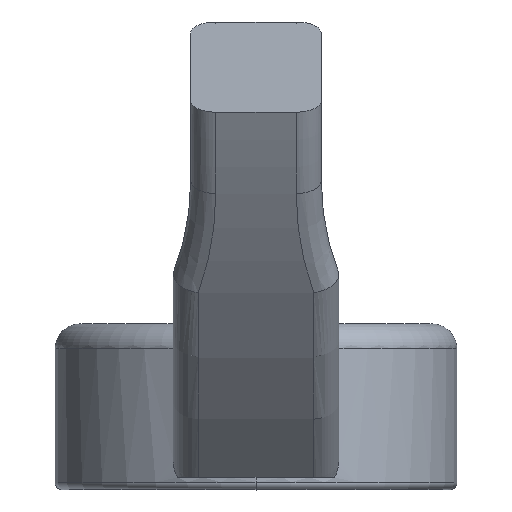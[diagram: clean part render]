
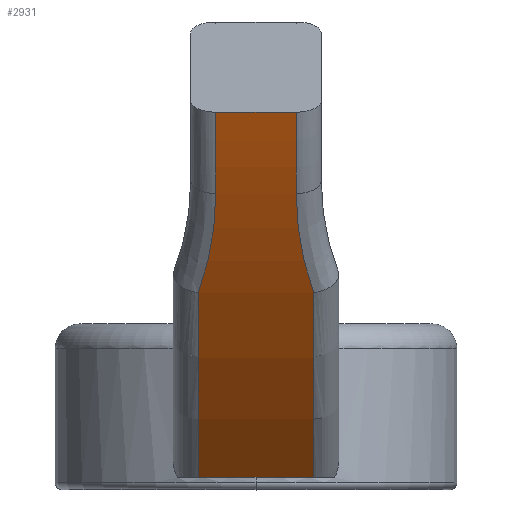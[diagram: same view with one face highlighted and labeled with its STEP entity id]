
A CAD part, top view. The second image highlights one B-rep face of the part: STEP entity #2931.
In plain terms, the highlighted cylindrical face has radius 26 mm (diameter 52 mm), a partial arc.
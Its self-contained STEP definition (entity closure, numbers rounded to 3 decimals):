
#216 = CARTESIAN_POINT ( 'NONE',  ( -0.8, 7.5, 9.5 ) ) ;
#325 = EDGE_CURVE ( 'NONE', #3829, #1783, #1084, .T. ) ;
#372 = EDGE_LOOP ( 'NONE', ( #3052, #602, #3488, #772, #2919, #556, #622, #2371, #2722 ) ) ;
#422 = CARTESIAN_POINT ( 'NONE',  ( 1.15, 3.911, 7.283 ) ) ;
#556 = ORIENTED_EDGE ( 'NONE', *, *, #325, .T. ) ;
#593 = AXIS2_PLACEMENT_3D ( 'NONE', #2867, #3861, #3907 ) ;
#602 = ORIENTED_EDGE ( 'NONE', *, *, #3601, .T. ) ;
#622 = ORIENTED_EDGE ( 'NONE', *, *, #3702, .T. ) ;
#676 = DIRECTION ( 'NONE',  ( -1., 0., 0. ) ) ;
#764 = CARTESIAN_POINT ( 'NONE',  ( 1.65, 0.238, 4. ) ) ;
#772 = ORIENTED_EDGE ( 'NONE', *, *, #4229, .F. ) ;
#1084 = B_SPLINE_CURVE_WITH_KNOTS ( 'NONE', 3,
 ( #1426, #4335, #2609, #3999 ),
 .UNSPECIFIED., .F., .F.,
 ( 4, 4 ),
 ( 0., 0.002 ),
 .UNSPECIFIED. ) ;
#1120 = AXIS2_PLACEMENT_3D ( 'NONE', #3047, #4033, #1289 ) ;
#1218 = DIRECTION ( 'NONE',  ( -1., 0., 0. ) ) ;
#1289 = DIRECTION ( 'NONE',  ( 0., 0., 1. ) ) ;
#1315 = AXIS2_PLACEMENT_3D ( 'NONE', #2376, #676, #3405 ) ;
#1326 = VERTEX_POINT ( 'NONE', #4126 ) ;
#1356 = LINE ( 'NONE', #2768, #1754 ) ;
#1392 = AXIS2_PLACEMENT_3D ( 'NONE', #1493, #4222, #4287 ) ;
#1396 = LINE ( 'NONE', #1771, #4375 ) ;
#1412 = CARTESIAN_POINT ( 'NONE',  ( -0.8, 5.879, 8.598 ) ) ;
#1426 = CARTESIAN_POINT ( 'NONE',  ( 1.15, 3.911, 7.283 ) ) ;
#1476 = CARTESIAN_POINT ( 'NONE',  ( -1.15, 0.238, 4. ) ) ;
#1493 = CARTESIAN_POINT ( 'NONE',  ( -1.15, 19.324, -13.656 ) ) ;
#1499 = VERTEX_POINT ( 'NONE', #3400 ) ;
#1517 = VERTEX_POINT ( 'NONE', #216 ) ;
#1594 = EDGE_CURVE ( 'NONE', #1517, #2756, #4472, .T. ) ;
#1638 = FACE_OUTER_BOUND ( 'NONE', #372, .T. ) ;
#1749 = EDGE_CURVE ( 'NONE', #2756, #3272, #4056, .T. ) ;
#1750 = EDGE_CURVE ( 'NONE', #4453, #1517, #1356, .T. ) ;
#1753 = CARTESIAN_POINT ( 'NONE',  ( -1.15, 3.911, 7.283 ) ) ;
#1754 = VECTOR ( 'NONE', #3836, 1000. ) ;
#1771 = CARTESIAN_POINT ( 'NONE',  ( 1.65, 0.238, 4. ) ) ;
#1783 = VERTEX_POINT ( 'NONE', #4148 ) ;
#1840 = CIRCLE ( 'NONE', #1315, 26. ) ;
#2169 = DIRECTION ( 'NONE',  ( -1., 0., 0. ) ) ;
#2222 = CARTESIAN_POINT ( 'NONE',  ( 0.8, 7.5, 9.5 ) ) ;
#2259 = CARTESIAN_POINT ( 'NONE',  ( 1.65, 19.324, -13.656 ) ) ;
#2287 = DIRECTION ( 'NONE',  ( 0., 0., 1. ) ) ;
#2371 = ORIENTED_EDGE ( 'NONE', *, *, #1750, .T. ) ;
#2376 = CARTESIAN_POINT ( 'NONE',  ( 0.8, 19.324, -13.656 ) ) ;
#2483 = LINE ( 'NONE', #764, #2493 ) ;
#2493 = VECTOR ( 'NONE', #2169, 1000. ) ;
#2565 = CIRCLE ( 'NONE', #593, 26. ) ;
#2609 = CARTESIAN_POINT ( 'NONE',  ( 0.8, 5.188, 8.181 ) ) ;
#2722 = ORIENTED_EDGE ( 'NONE', *, *, #1594, .T. ) ;
#2756 = VERTEX_POINT ( 'NONE', #1412 ) ;
#2768 = CARTESIAN_POINT ( 'NONE',  ( 1.65, 7.5, 9.5 ) ) ;
#2809 = DIRECTION ( 'NONE',  ( -1., 0., 0. ) ) ;
#2867 = CARTESIAN_POINT ( 'NONE',  ( 1.15, 19.324, -13.656 ) ) ;
#2919 = ORIENTED_EDGE ( 'NONE', *, *, #3487, .T. ) ;
#2931 = ADVANCED_FACE ( 'NONE', ( #1638 ), #4038, .T. ) ;
#3047 = CARTESIAN_POINT ( 'NONE',  ( -0.8, 19.324, -13.656 ) ) ;
#3052 = ORIENTED_EDGE ( 'NONE', *, *, #1749, .T. ) ;
#3138 = CARTESIAN_POINT ( 'NONE',  ( -0.8, 5.188, 8.181 ) ) ;
#3272 = VERTEX_POINT ( 'NONE', #4193 ) ;
#3400 = CARTESIAN_POINT ( 'NONE',  ( 0., 0.238, 4. ) ) ;
#3405 = DIRECTION ( 'NONE',  ( 0., 0., -1. ) ) ;
#3487 = EDGE_CURVE ( 'NONE', #1326, #3829, #2565, .T. ) ;
#3488 = ORIENTED_EDGE ( 'NONE', *, *, #3787, .F. ) ;
#3601 = EDGE_CURVE ( 'NONE', #3272, #4427, #4012, .T. ) ;
#3702 = EDGE_CURVE ( 'NONE', #1783, #4453, #1840, .T. ) ;
#3787 = EDGE_CURVE ( 'NONE', #1499, #4427, #2483, .T. ) ;
#3829 = VERTEX_POINT ( 'NONE', #422 ) ;
#3836 = DIRECTION ( 'NONE',  ( -1., 0., 0. ) ) ;
#3861 = DIRECTION ( 'NONE',  ( -1., 0., 0. ) ) ;
#3880 = AXIS2_PLACEMENT_3D ( 'NONE', #2259, #1218, #2287 ) ;
#3907 = DIRECTION ( 'NONE',  ( 0., 0., -1. ) ) ;
#3999 = CARTESIAN_POINT ( 'NONE',  ( 0.8, 5.879, 8.598 ) ) ;
#4012 = CIRCLE ( 'NONE', #1392, 26. ) ;
#4033 = DIRECTION ( 'NONE',  ( 1., 0., 0. ) ) ;
#4038 = CYLINDRICAL_SURFACE ( 'NONE', #3880, 26. ) ;
#4056 = B_SPLINE_CURVE_WITH_KNOTS ( 'NONE', 3,
 ( #4219, #3138, #4487, #1753 ),
 .UNSPECIFIED., .F., .F.,
 ( 4, 4 ),
 ( 0., 0.002 ),
 .UNSPECIFIED. ) ;
#4126 = CARTESIAN_POINT ( 'NONE',  ( 1.15, 0.238, 4. ) ) ;
#4148 = CARTESIAN_POINT ( 'NONE',  ( 0.8, 5.879, 8.598 ) ) ;
#4193 = CARTESIAN_POINT ( 'NONE',  ( -1.15, 3.911, 7.283 ) ) ;
#4219 = CARTESIAN_POINT ( 'NONE',  ( -0.8, 5.879, 8.598 ) ) ;
#4222 = DIRECTION ( 'NONE',  ( 1., 0., 0. ) ) ;
#4229 = EDGE_CURVE ( 'NONE', #1326, #1499, #1396, .T. ) ;
#4287 = DIRECTION ( 'NONE',  ( 0., 0., -1. ) ) ;
#4335 = CARTESIAN_POINT ( 'NONE',  ( 0.921, 4.534, 7.741 ) ) ;
#4375 = VECTOR ( 'NONE', #2809, 1000. ) ;
#4427 = VERTEX_POINT ( 'NONE', #1476 ) ;
#4453 = VERTEX_POINT ( 'NONE', #2222 ) ;
#4472 = CIRCLE ( 'NONE', #1120, 26. ) ;
#4487 = CARTESIAN_POINT ( 'NONE',  ( -0.921, 4.534, 7.741 ) ) ;
